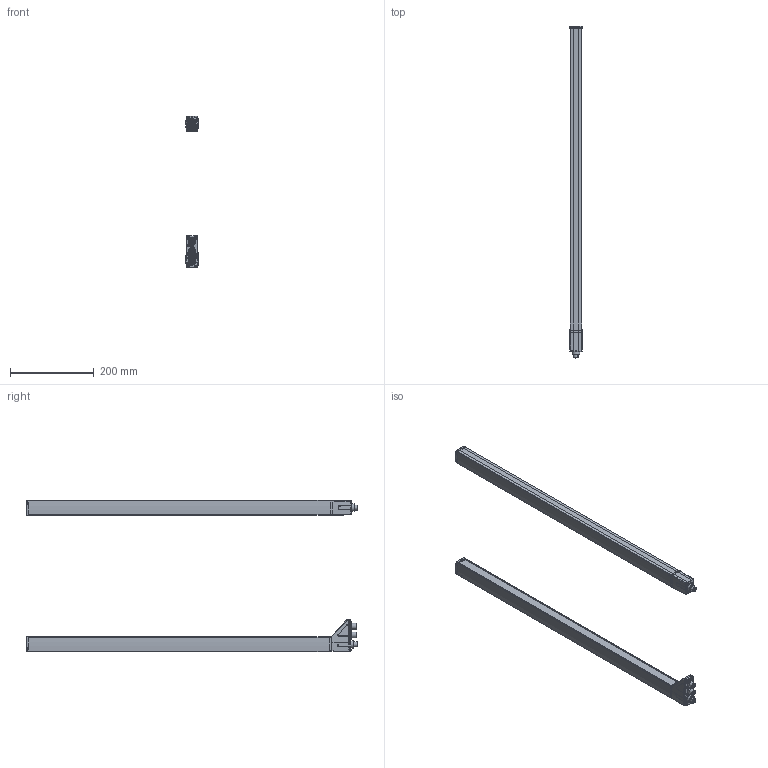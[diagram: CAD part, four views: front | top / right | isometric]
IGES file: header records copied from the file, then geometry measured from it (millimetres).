
Global section: file name: E:\lem\3DCAD_CML700i_PN_720.igs; native system: NX V8.5; preprocessor: SIEMENS PLM Software NX 8.5; date: 20170919.151029; units: millimetre
Bounding box: 28.99 x 792.8 x 361.11 mm (x, y, z)
Surface area: 262466.1 mm2 (no closed solid volume)
Topology: 0 solids, 0 shells, 2473 faces, 14638 edges, 14482 vertices
Faces by surface type: bspline 2473
